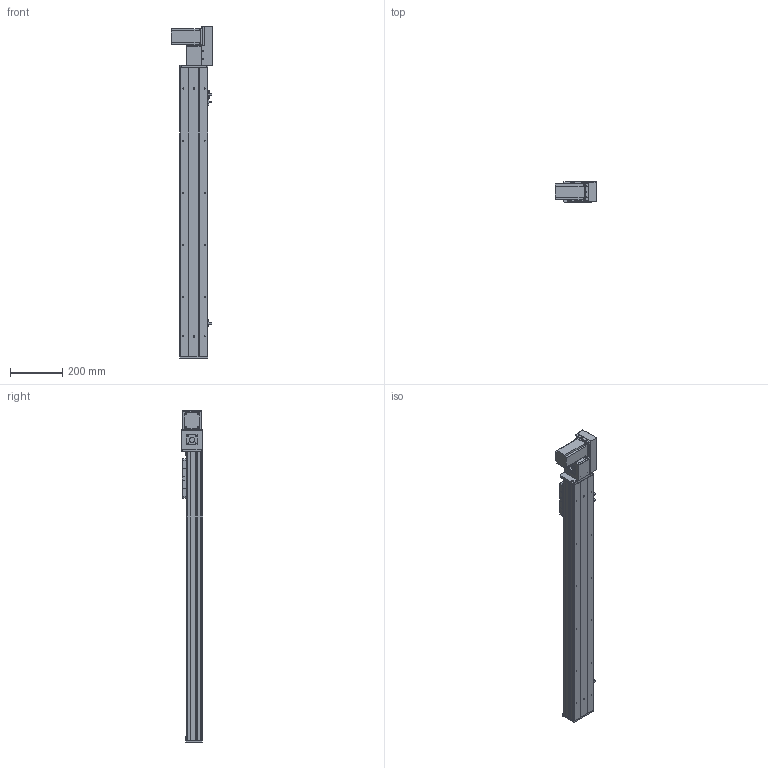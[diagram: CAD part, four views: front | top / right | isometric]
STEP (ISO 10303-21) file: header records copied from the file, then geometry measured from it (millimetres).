
FILE_DESCRIPTION (( 'STEP AP203' ), '1' );
FILE_NAME ('Y10CB-D90-S850-BR-P400W.STEP', '2020-02-16T01:44:33', ( '微软用户' ), ( '微软中国' ), 'SwSTEP 2.0', 'SolidWorks 2017', '' );
FILE_SCHEMA (( 'CONFIG_CONTROL_DESIGN' ));
Length unit declared in the file: millimetre
Products named in the file (18): Y10B--々湍喘謫眊--666; Y俋欶BR----; 0CB-雄赽釱---; Y10CB-D90-S850-BR-P400W; 10CB-詩湍-; 0Cb-俋欶---; Y10CB- 掛极耜裔啣-毀---; Y10B-々湍喘謫眊楊擘啣--; Y10C---詩湍揤啣; Y10B-耜蚾蟀諉啣----; 10CB9-掛极; 0B-萇儂楊擘啣; 10CB-耜裔; san松下电机400不带刹车----; Y135C-陔俋离換覜結え-; 0B-源倛裔啣; Y100-135俋离換覜ん--; 0B-埴倛裔啣
Assembly tree (21 placements, depth 2):
  Y10CB-D90-S850-BR-P400W
    0CB-雄赽釱---
    0Cb-俋欶---
    Y10B-々湍喘謫眊楊擘啣--
    Y10B-耜蚾蟀諉啣----
    0B-萇儂楊擘啣
    san松下电机400不带刹车----
    0B-源倛裔啣
    0B-埴倛裔啣
    Y俋欶BR----
    10CB-詩湍-
    Y10CB- 掛极耜裔啣-毀---  x2
    Y10C---詩湍揤啣  x2
    10CB9-掛极
    10CB-耜裔
    Y135C-陔俋离換覜結え-
    Y100-135俋离換覜ん--  x3
    Y10B--々湍喘謫眊--666
Bounding box: 157.5 x 80.5 x 1272.5 mm (x, y, z)
Volume: 2875072.3 mm3; surface area: 1280555.9 mm2
Topology: 21 solids, 21 shells, 978 faces, 2603 edges, 1706 vertices
Faces by surface type: cylinder 477, plane 477, cone 24
Entity records: 30404 total; most frequent: CARTESIAN_POINT 5321, DIRECTION 4926, ORIENTED_EDGE 4676, EDGE_CURVE 2338, AXIS2_PLACEMENT_3D 1761, VERTEX_POINT 1532, VECTOR 1404, LINE 1404
